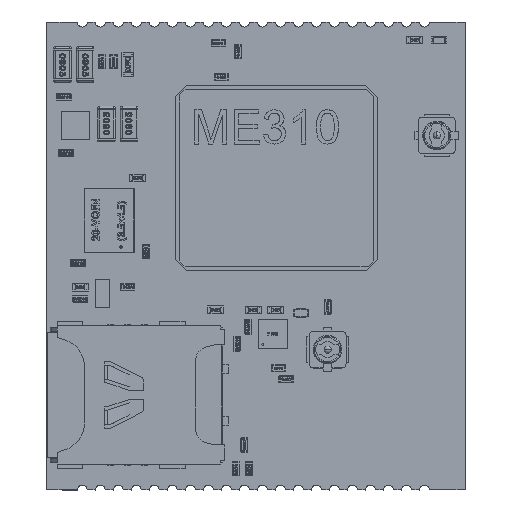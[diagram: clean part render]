
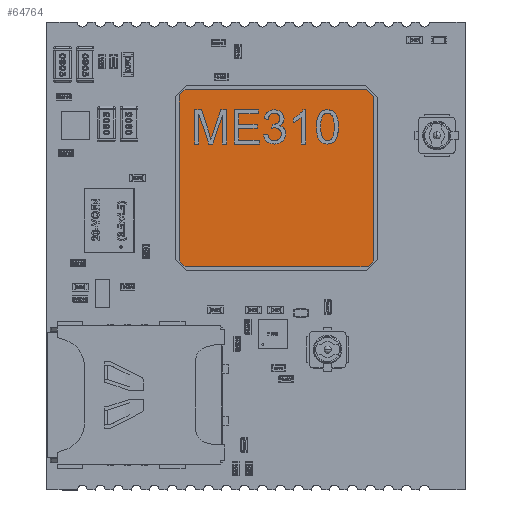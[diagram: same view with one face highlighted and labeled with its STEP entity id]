
A CAD part, top view. The second image highlights one B-rep face of the part: STEP entity #64764.
In plain terms, the highlighted planar face has unit normal (0, 0, 1).
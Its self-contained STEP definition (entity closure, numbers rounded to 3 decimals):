
#64507 = VERTEX_POINT('',#64508);
#64508 = CARTESIAN_POINT('',(-6.85,-5.85,1.8));
#64514 = EDGE_CURVE('',#64507,#64515,#64517,.T.);
#64515 = VERTEX_POINT('',#64516);
#64516 = CARTESIAN_POINT('',(-6.45,-6.25,1.8));
#64517 = LINE('',#64518,#64519);
#64518 = CARTESIAN_POINT('',(-6.85,-5.85,1.8));
#64519 = VECTOR('',#64520,1.);
#64520 = DIRECTION('',(0.707,-0.707,0.));
#64545 = EDGE_CURVE('',#64515,#64546,#64548,.T.);
#64546 = VERTEX_POINT('',#64547);
#64547 = CARTESIAN_POINT('',(6.45,-6.25,1.8));
#64548 = LINE('',#64549,#64550);
#64549 = CARTESIAN_POINT('',(-6.45,-6.25,1.8));
#64550 = VECTOR('',#64551,1.);
#64551 = DIRECTION('',(1.,0.,0.));
#64576 = EDGE_CURVE('',#64546,#64577,#64579,.T.);
#64577 = VERTEX_POINT('',#64578);
#64578 = CARTESIAN_POINT('',(6.85,-5.85,1.8));
#64579 = LINE('',#64580,#64581);
#64580 = CARTESIAN_POINT('',(6.45,-6.25,1.8));
#64581 = VECTOR('',#64582,1.);
#64582 = DIRECTION('',(0.707,0.707,0.));
#64607 = EDGE_CURVE('',#64577,#64608,#64610,.T.);
#64608 = VERTEX_POINT('',#64609);
#64609 = CARTESIAN_POINT('',(6.85,5.75,1.8));
#64610 = LINE('',#64611,#64612);
#64611 = CARTESIAN_POINT('',(6.85,-5.85,1.8));
#64612 = VECTOR('',#64613,1.);
#64613 = DIRECTION('',(0.,1.,0.));
#64638 = EDGE_CURVE('',#64608,#64639,#64641,.T.);
#64639 = VERTEX_POINT('',#64640);
#64640 = CARTESIAN_POINT('',(6.35,6.25,1.8));
#64641 = LINE('',#64642,#64643);
#64642 = CARTESIAN_POINT('',(6.85,5.75,1.8));
#64643 = VECTOR('',#64644,1.);
#64644 = DIRECTION('',(-0.707,0.707,0.));
#64669 = EDGE_CURVE('',#64639,#64670,#64672,.T.);
#64670 = VERTEX_POINT('',#64671);
#64671 = CARTESIAN_POINT('',(-6.45,6.25,1.8));
#64672 = LINE('',#64673,#64674);
#64673 = CARTESIAN_POINT('',(6.35,6.25,1.8));
#64674 = VECTOR('',#64675,1.);
#64675 = DIRECTION('',(-1.,0.,0.));
#64700 = EDGE_CURVE('',#64670,#64701,#64703,.T.);
#64701 = VERTEX_POINT('',#64702);
#64702 = CARTESIAN_POINT('',(-6.85,5.85,1.8));
#64703 = LINE('',#64704,#64705);
#64704 = CARTESIAN_POINT('',(-6.45,6.25,1.8));
#64705 = VECTOR('',#64706,1.);
#64706 = DIRECTION('',(-0.707,-0.707,0.));
#64731 = EDGE_CURVE('',#64701,#64507,#64732,.T.);
#64732 = LINE('',#64733,#64734);
#64733 = CARTESIAN_POINT('',(-6.85,5.85,1.8));
#64734 = VECTOR('',#64735,1.);
#64735 = DIRECTION('',(0.,-1.,0.));
#64764 = ADVANCED_FACE('',(#64765),#64775,.F.);
#64765 = FACE_BOUND('',#64766,.T.);
#64766 = EDGE_LOOP('',(#64767,#64768,#64769,#64770,#64771,#64772,#64773,
    #64774));
#64767 = ORIENTED_EDGE('',*,*,#64514,.T.);
#64768 = ORIENTED_EDGE('',*,*,#64545,.T.);
#64769 = ORIENTED_EDGE('',*,*,#64576,.T.);
#64770 = ORIENTED_EDGE('',*,*,#64607,.T.);
#64771 = ORIENTED_EDGE('',*,*,#64638,.T.);
#64772 = ORIENTED_EDGE('',*,*,#64669,.T.);
#64773 = ORIENTED_EDGE('',*,*,#64700,.T.);
#64774 = ORIENTED_EDGE('',*,*,#64731,.T.);
#64775 = PLANE('',#64776);
#64776 = AXIS2_PLACEMENT_3D('',#64777,#64778,#64779);
#64777 = CARTESIAN_POINT('',(-6.85,-5.85,1.8));
#64778 = DIRECTION('',(0.,0.,-1.));
#64779 = DIRECTION('',(-1.,0.,0.));
